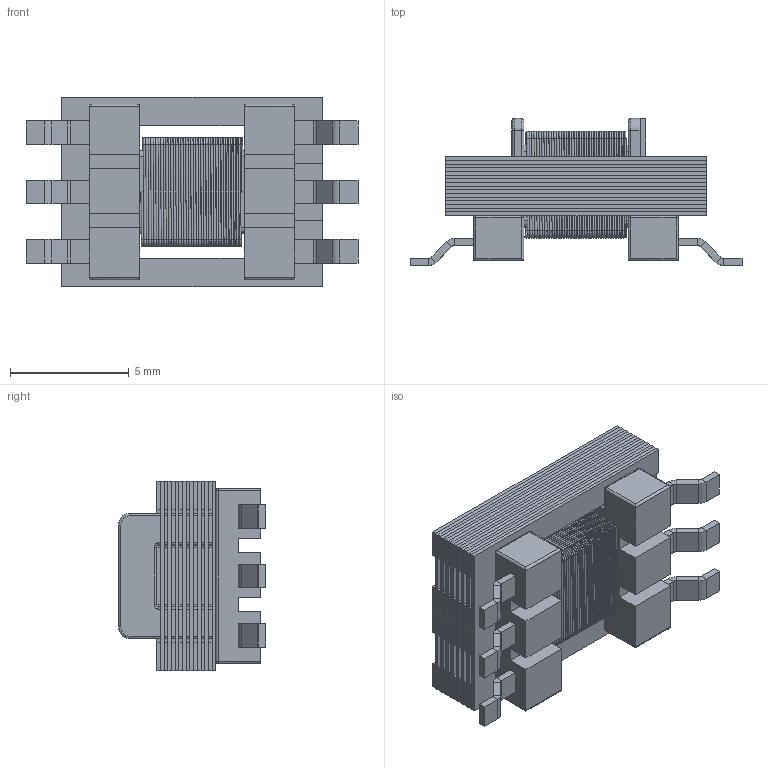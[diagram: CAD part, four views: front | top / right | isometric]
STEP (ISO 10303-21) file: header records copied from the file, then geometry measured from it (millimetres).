
FILE_DESCRIPTION (( 'STEP AP203' ), '1' );
FILE_NAME ('WHTT_6PIN.STEP', '2025-12-08T06:35:50', ( '' ), ( '' ), 'SwSTEP 2.0', 'SolidWorks 2025', '' );
FILE_SCHEMA (( 'CONFIG_CONTROL_DESIGN' ));
Products named in the file (5): 6010_CORE; 6010_CASE; 6010_Wire; 6010_PIN; WHTT_6PIN
Assembly tree (26 placements, depth 2):
  WHTT_6PIN
    6010_CASE
    6010_PIN  x8
    6010_CORE  x16
    6010_Wire
Bounding box: 14 x 6.2 x 8 mm (x, y, z)
Volume: 259.9 mm3; surface area: 2778.9 mm2
Topology: 26 solids, 26 shells, 1189 faces, 2575 edges, 1436 vertices
Faces by surface type: bspline 642, plane 446, cylinder 82, torus 11, sphere 8
Entity records: 53603 total; most frequent: CARTESIAN_POINT 38521, ORIENTED_EDGE 3438, DIRECTION 2228, EDGE_CURVE 1719, AXIS2_PLACEMENT_3D 951, VERTEX_POINT 908, EDGE_LOOP 833, FACE_OUTER_BOUND 825
